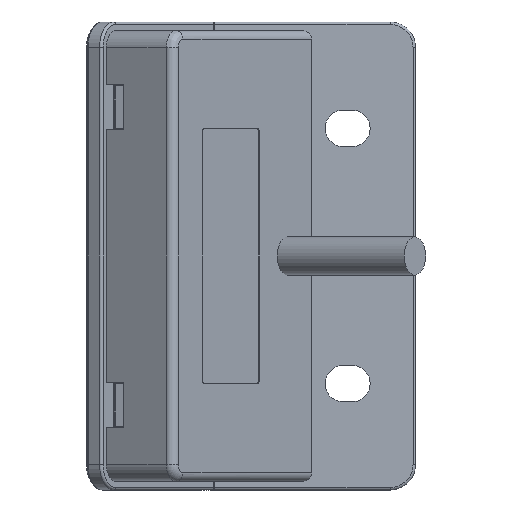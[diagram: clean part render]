
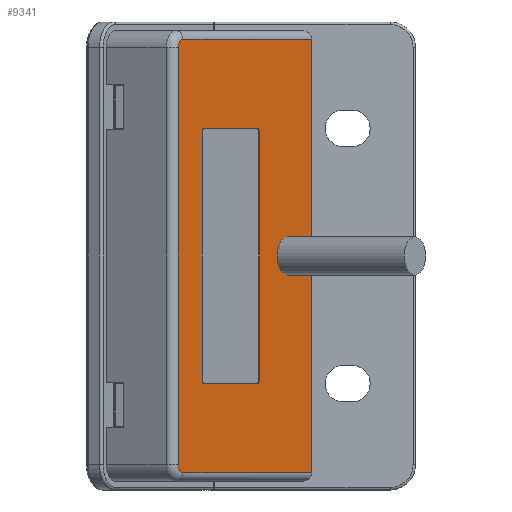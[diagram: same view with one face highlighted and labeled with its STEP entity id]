
A CAD part, front view. The second image highlights one B-rep face of the part: STEP entity #9341.
In plain terms, the highlighted planar face has unit normal (0.829, -0.559, 0).
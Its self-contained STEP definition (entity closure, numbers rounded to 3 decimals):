
#88=DIRECTION('',(0.,0.,1.));
#89=VECTOR('',#88,23.25);
#90=CARTESIAN_POINT('',(33.429,23.463,-49.5));
#91=LINE('',#90,#89);
#124=DIRECTION('',(0.,0.,1.));
#125=VECTOR('',#124,23.25);
#126=CARTESIAN_POINT('',(33.429,23.463,-21.75));
#127=LINE('',#126,#125);
#2566=CARTESIAN_POINT('',(26.992,13.919,-9.5));
#2567=DIRECTION('',(0.829,-0.559,0.));
#2568=DIRECTION('',(0.559,0.829,0.));
#2569=AXIS2_PLACEMENT_3D('',#2566,#2567,#2568);
#2571=CARTESIAN_POINT('',(20.841,4.8,-9.5));
#2572=DIRECTION('',(0.829,-0.559,0.));
#2573=DIRECTION('',(0.,0.,1.));
#2574=AXIS2_PLACEMENT_3D('',#2571,#2572,#2573);
#2576=CARTESIAN_POINT('',(20.841,4.8,-38.5));
#2577=DIRECTION('',(0.829,-0.559,0.));
#2578=DIRECTION('',(-0.559,-0.829,0.));
#2579=AXIS2_PLACEMENT_3D('',#2576,#2577,#2578);
#2581=CARTESIAN_POINT('',(26.992,13.919,-38.5));
#2582=DIRECTION('',(0.829,-0.559,0.));
#2583=DIRECTION('',(0.,0.,-1.));
#2584=AXIS2_PLACEMENT_3D('',#2581,#2582,#2583);
#2586=DIRECTION('',(0.559,0.829,0.));
#2587=VECTOR('',#2586,5.012);
#2588=CARTESIAN_POINT('',(30.627,19.308,-26.25));
#2589=LINE('',#2588,#2587);
#2590=CARTESIAN_POINT('',(18.287,1.014,-48.5));
#2591=DIRECTION('',(-0.829,0.559,0.));
#2592=DIRECTION('',(0.,0.,-1.));
#2593=AXIS2_PLACEMENT_3D('',#2590,#2591,#2592);
#2595=CARTESIAN_POINT('',(18.287,1.014,0.5));
#2596=DIRECTION('',(-0.829,0.559,0.));
#2597=DIRECTION('',(-0.559,-0.829,0.));
#2598=AXIS2_PLACEMENT_3D('',#2595,#2596,#2597);
#2600=CARTESIAN_POINT('',(30.627,19.308,-24.));
#2601=DIRECTION('',(-0.829,0.559,0.));
#2602=DIRECTION('',(0.,0.,-1.));
#2603=AXIS2_PLACEMENT_3D('',#2600,#2601,#2602);
#2618=DIRECTION('',(0.,0.,-1.));
#2619=VECTOR('',#2618,29.);
#2620=CARTESIAN_POINT('',(27.271,14.334,-9.5));
#2621=LINE('',#2620,#2619);
#2639=DIRECTION('',(-0.559,-0.829,0.));
#2640=VECTOR('',#2639,11.);
#2641=CARTESIAN_POINT('',(26.992,13.919,-39.));
#2642=LINE('',#2641,#2640);
#2660=DIRECTION('',(0.,0.,1.));
#2661=VECTOR('',#2660,29.);
#2662=CARTESIAN_POINT('',(20.561,4.385,-38.5));
#2663=LINE('',#2662,#2661);
#2681=DIRECTION('',(0.559,0.829,0.));
#2682=VECTOR('',#2681,11.);
#2683=CARTESIAN_POINT('',(20.841,4.8,-9.));
#2684=LINE('',#2683,#2682);
#2689=DIRECTION('',(0.559,0.829,0.));
#2690=VECTOR('',#2689,27.079);
#2691=CARTESIAN_POINT('',(18.287,1.014,-49.5));
#2692=LINE('',#2691,#2690);
#3684=DIRECTION('',(-0.559,-0.829,0.));
#3685=VECTOR('',#3684,27.079);
#3686=CARTESIAN_POINT('',(33.429,23.463,1.5));
#3687=LINE('',#3686,#3685);
#3702=DIRECTION('',(0.,0.,-1.));
#3703=VECTOR('',#3702,49.);
#3704=CARTESIAN_POINT('',(17.728,0.185,
0.5));
#3705=LINE('',#3704,#3703);
#4215=DIRECTION('',(0.559,0.829,0.));
#4216=VECTOR('',#4215,5.012);
#4217=CARTESIAN_POINT('',(30.627,19.308,-21.75));
#4218=LINE('',#4217,#4216);
#4718=CARTESIAN_POINT('',(18.287,1.014,-49.5));
#4719=CARTESIAN_POINT('',(17.728,0.185,
-48.5));
#4720=VERTEX_POINT('',#4718);
#4721=VERTEX_POINT('',#4719);
#4722=CARTESIAN_POINT('',(17.728,0.185,
0.5));
#4723=VERTEX_POINT('',#4722);
#4724=CARTESIAN_POINT('',(18.287,1.014,1.5));
#4725=VERTEX_POINT('',#4724);
#4726=CARTESIAN_POINT('',(27.271,14.334,-9.5));
#4727=CARTESIAN_POINT('',(26.992,13.919,-9.));
#4728=VERTEX_POINT('',#4726);
#4729=VERTEX_POINT('',#4727);
#4730=CARTESIAN_POINT('',(20.841,4.8,-9.));
#4731=VERTEX_POINT('',#4730);
#4732=CARTESIAN_POINT('',(20.561,4.385,-9.5));
#4733=VERTEX_POINT('',#4732);
#4734=CARTESIAN_POINT('',(20.561,4.385,-38.5));
#4735=VERTEX_POINT('',#4734);
#4736=CARTESIAN_POINT('',(20.841,4.8,-39.));
#4737=VERTEX_POINT('',#4736);
#4738=CARTESIAN_POINT('',(26.992,13.919,-39.));
#4739=VERTEX_POINT('',#4738);
#4740=CARTESIAN_POINT('',(27.271,14.334,-38.5));
#4741=VERTEX_POINT('',#4740);
#5168=CARTESIAN_POINT('',(33.429,23.463,-26.25));
#5169=VERTEX_POINT('',#5168);
#5170=CARTESIAN_POINT('',(33.429,23.463,-49.5));
#5171=VERTEX_POINT('',#5170);
#5172=CARTESIAN_POINT('',(33.429,23.463,-21.75));
#5173=CARTESIAN_POINT('',(33.429,23.463,1.5));
#5174=VERTEX_POINT('',#5172);
#5175=VERTEX_POINT('',#5173);
#5289=CARTESIAN_POINT('',(30.627,19.308,-26.25));
#5290=VERTEX_POINT('',#5289);
#5291=CARTESIAN_POINT('',(30.627,19.308,-21.75));
#5292=VERTEX_POINT('',#5291);
#9300=CARTESIAN_POINT('',(25.579,11.824,-24.));
#9301=DIRECTION('',(0.829,-0.559,0.));
#9302=DIRECTION('',(0.559,0.829,0.));
#9303=AXIS2_PLACEMENT_3D('',#9300,#9301,#9302);
#9304=PLANE('',#9303);
#9305=ORIENTED_EDGE('',*,*,#9295,.T.);
#9306=ORIENTED_EDGE('',*,*,#5508,.F.);
#9308=ORIENTED_EDGE('',*,*,#9307,.F.);
#9310=ORIENTED_EDGE('',*,*,#9309,.T.);
#9312=ORIENTED_EDGE('',*,*,#9311,.F.);
#9314=ORIENTED_EDGE('',*,*,#9313,.T.);
#9316=ORIENTED_EDGE('',*,*,#9315,.F.);
#9317=ORIENTED_EDGE('',*,*,#5528,.F.);
#9319=ORIENTED_EDGE('',*,*,#9318,.F.);
#9320=ORIENTED_EDGE('',*,*,#9147,.F.);
#9321=EDGE_LOOP('',(#9305,#9306,#9308,#9310,#9312,#9314,#9316,#9317,#9319,
#9320));
#9322=FACE_OUTER_BOUND('',#9321,.F.);
#9324=ORIENTED_EDGE('',*,*,#9323,.T.);
#9326=ORIENTED_EDGE('',*,*,#9325,.F.);
#9328=ORIENTED_EDGE('',*,*,#9327,.T.);
#9330=ORIENTED_EDGE('',*,*,#9329,.F.);
#9332=ORIENTED_EDGE('',*,*,#9331,.T.);
#9334=ORIENTED_EDGE('',*,*,#9333,.F.);
#9336=ORIENTED_EDGE('',*,*,#9335,.T.);
#9338=ORIENTED_EDGE('',*,*,#9337,.F.);
#9339=EDGE_LOOP('',(#9324,#9326,#9328,#9330,#9332,#9334,#9336,#9338));
#9340=FACE_BOUND('',#9339,.F.);
#9341=ADVANCED_FACE('',(#9322,#9340),#9304,.T.);
#2570=CIRCLE('',#2569,0.5);
#2575=CIRCLE('',#2574,0.5);
#2580=CIRCLE('',#2579,0.5);
#2585=CIRCLE('',#2584,0.5);
#2594=CIRCLE('',#2593,1.);
#2599=CIRCLE('',#2598,1.);
#2604=CIRCLE('',#2603,2.25);
#5508=EDGE_CURVE('',#5171,#5169,#91,.T.);
#5528=EDGE_CURVE('',#5174,#5175,#127,.T.);
#9147=EDGE_CURVE('',#5290,#5292,#2604,.T.);
#9295=EDGE_CURVE('',#5290,#5169,#2589,.T.);
#9307=EDGE_CURVE('',#4720,#5171,#2692,.T.);
#9309=EDGE_CURVE('',#4720,#4721,#2594,.T.);
#9311=EDGE_CURVE('',#4723,#4721,#3705,.T.);
#9313=EDGE_CURVE('',#4723,#4725,#2599,.T.);
#9315=EDGE_CURVE('',#5175,#4725,#3687,.T.);
#9318=EDGE_CURVE('',#5292,#5174,#4218,.T.);
#9323=EDGE_CURVE('',#4728,#4729,#2570,.T.);
#9325=EDGE_CURVE('',#4731,#4729,#2684,.T.);
#9327=EDGE_CURVE('',#4731,#4733,#2575,.T.);
#9329=EDGE_CURVE('',#4735,#4733,#2663,.T.);
#9331=EDGE_CURVE('',#4735,#4737,#2580,.T.);
#9333=EDGE_CURVE('',#4739,#4737,#2642,.T.);
#9335=EDGE_CURVE('',#4739,#4741,#2585,.T.);
#9337=EDGE_CURVE('',#4728,#4741,#2621,.T.);
